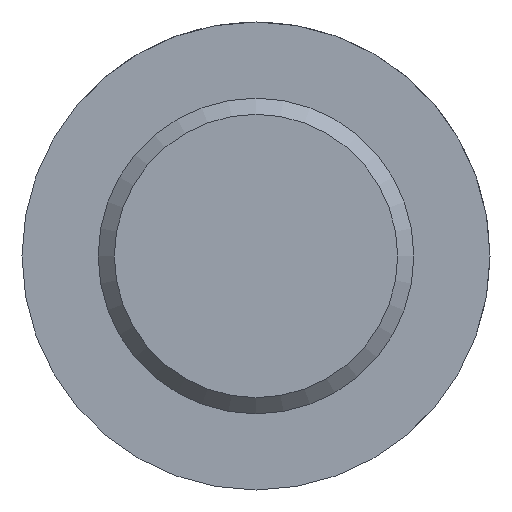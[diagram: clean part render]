
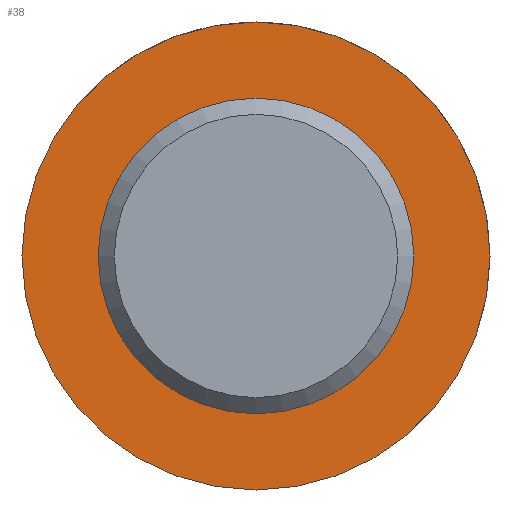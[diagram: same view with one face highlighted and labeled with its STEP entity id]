
A CAD part, front view. The second image highlights one B-rep face of the part: STEP entity #38.
In plain terms, the highlighted planar face has unit normal (0, -1, 0).
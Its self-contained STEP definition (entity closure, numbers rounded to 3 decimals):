
#38 = ADVANCED_FACE( '', ( #79, #80 ), #81, .F. );
#79 = FACE_BOUND( '', #122, .T. );
#80 = FACE_OUTER_BOUND( '', #123, .T. );
#81 = PLANE( '', #124 );
#122 = EDGE_LOOP( '', ( #197 ) );
#123 = EDGE_LOOP( '', ( #198 ) );
#124 = AXIS2_PLACEMENT_3D( '', #199, #200, #201 );
#197 = ORIENTED_EDGE( '', *, *, #252, .F. );
#198 = ORIENTED_EDGE( '', *, *, #246, .T. );
#199 = CARTESIAN_POINT( '', ( 12.35, 11.3, 0. ) );
#200 = DIRECTION( '', ( 0., 1., 0. ) );
#201 = DIRECTION( '', ( 0., 0., 1. ) );
#246 = EDGE_CURVE( '', #268, #268, #269, .T. );
#252 = EDGE_CURVE( '', #278, #278, #279, .T. );
#268 = VERTEX_POINT( '', #300 );
#269 = CIRCLE( '', #301, 12.35 );
#278 = VERTEX_POINT( '', #310 );
#279 = CIRCLE( '', #311, 8.331 );
#300 = CARTESIAN_POINT( '', ( 0., 11.3, -12.35 ) );
#301 = AXIS2_PLACEMENT_3D( '', #367, #368, #369 );
#310 = CARTESIAN_POINT( '', ( 0., 11.3, -8.331 ) );
#311 = AXIS2_PLACEMENT_3D( '', #379, #380, #381 );
#367 = CARTESIAN_POINT( '', ( 0., 11.3, 0. ) );
#368 = DIRECTION( '', ( 0., -1., 0. ) );
#369 = DIRECTION( '', ( 0., 0., -1. ) );
#379 = CARTESIAN_POINT( '', ( 0., 11.3, 0. ) );
#380 = DIRECTION( '', ( 0., -1., 0. ) );
#381 = DIRECTION( '', ( 0., 0., -1. ) );
